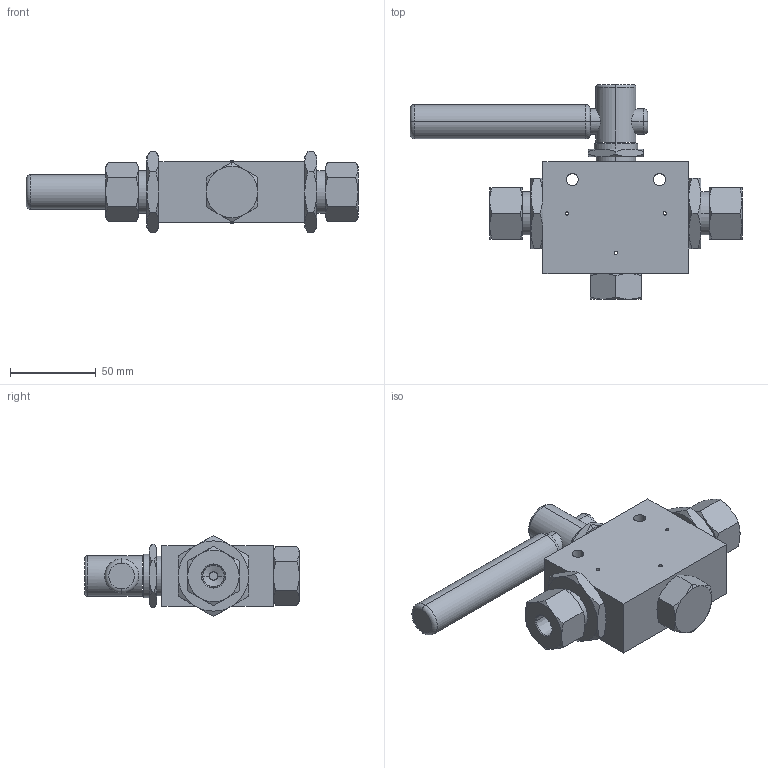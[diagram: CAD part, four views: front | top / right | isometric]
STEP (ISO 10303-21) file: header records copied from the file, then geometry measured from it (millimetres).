
FILE_DESCRIPTION (( 'STEP AP203' ), '1' );
FILE_NAME ('BVP05S04-2-90.STEP', '2022-04-12T10:51:19', ( '' ), ( '' ), 'SwSTEP 2.0', 'SolidWorks 2020', '' );
FILE_SCHEMA (( 'CONFIG_CONTROL_DESIGN' ));
Length unit declared in the file: millimetre
Products named in the file (1): BVP05S04-2-90
Bounding box: 193.5 x 125 x 47.34 mm (x, y, z)
Volume: 307680.1 mm3; surface area: 47377.2 mm2
Topology: 1 solids, 1 shells, 198 faces, 442 edges, 260 vertices
Faces by surface type: cone 90, plane 64, cylinder 36, torus 8
Entity records: 6371 total; most frequent: CARTESIAN_POINT 2057, ORIENTED_EDGE 884, DIRECTION 868, EDGE_CURVE 442, AXIS2_PLACEMENT_3D 379, VERTEX_POINT 260, EDGE_LOOP 226, FACE_OUTER_BOUND 198
